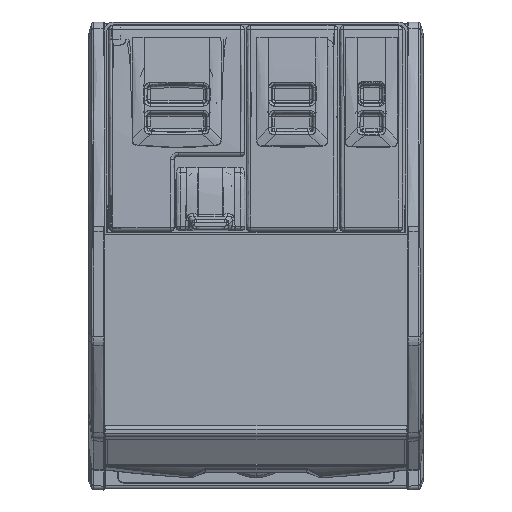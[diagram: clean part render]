
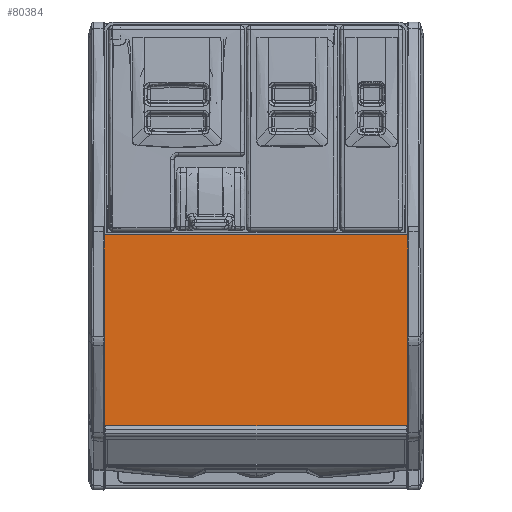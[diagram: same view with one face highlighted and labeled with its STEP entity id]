
A CAD part, top view. The second image highlights one B-rep face of the part: STEP entity #80384.
In plain terms, the highlighted planar face has unit normal (0, 0, 1).
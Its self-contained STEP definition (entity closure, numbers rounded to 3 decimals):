
#16496=ORIENTED_EDGE('',*,*,#26728,.T.);
#16497=ORIENTED_EDGE('',*,*,#30484,.F.);
#16498=ORIENTED_EDGE('',*,*,#30485,.F.);
#16499=ORIENTED_EDGE('',*,*,#26708,.F.);
#16500=ORIENTED_EDGE('',*,*,#30486,.F.);
#16501=ORIENTED_EDGE('',*,*,#30487,.T.);
#16502=ORIENTED_EDGE('',*,*,#30488,.F.);
#16503=ORIENTED_EDGE('',*,*,#30489,.T.);
#16504=ORIENTED_EDGE('',*,*,#30490,.T.);
#16505=ORIENTED_EDGE('',*,*,#30491,.T.);
#16506=ORIENTED_EDGE('',*,*,#30492,.T.);
#16507=ORIENTED_EDGE('',*,*,#30493,.T.);
#26708=EDGE_CURVE('',#35386,#35387,#40576,.T.);
#26728=EDGE_CURVE('',#35407,#35406,#40593,.T.);
#30484=EDGE_CURVE('',#37727,#35406,#41379,.T.);
#30485=EDGE_CURVE('',#35387,#37727,#41380,.T.);
#30486=EDGE_CURVE('',#37728,#35386,#41381,.T.);
#30487=EDGE_CURVE('',#37728,#37729,#41382,.T.);
#30488=EDGE_CURVE('',#37730,#37729,#41383,.T.);
#30489=EDGE_CURVE('',#37730,#37731,#41384,.T.);
#30490=EDGE_CURVE('',#37731,#37732,#41385,.T.);
#30491=EDGE_CURVE('',#37732,#37733,#41386,.T.);
#30492=EDGE_CURVE('',#37733,#37734,#41387,.T.);
#30493=EDGE_CURVE('',#37734,#35407,#41388,.T.);
#35386=VERTEX_POINT('',#105092);
#35387=VERTEX_POINT('',#105094);
#35406=VERTEX_POINT('',#105149);
#35407=VERTEX_POINT('',#105151);
#37727=VERTEX_POINT('',#176238);
#37728=VERTEX_POINT('',#176241);
#37729=VERTEX_POINT('',#176243);
#37730=VERTEX_POINT('',#176245);
#37731=VERTEX_POINT('',#176247);
#37732=VERTEX_POINT('',#176249);
#37733=VERTEX_POINT('',#176251);
#37734=VERTEX_POINT('',#176253);
#40576=LINE('',#105093,#43926);
#40593=LINE('',#105150,#43943);
#41379=LINE('',#176237,#44729);
#41380=LINE('',#176239,#44730);
#41381=LINE('',#176240,#44731);
#41382=LINE('',#176242,#44732);
#41383=LINE('',#176244,#44733);
#41384=LINE('',#176246,#44734);
#41385=LINE('',#176248,#44735);
#41386=LINE('',#176250,#44736);
#41387=LINE('',#176252,#44737);
#41388=LINE('',#176254,#44738);
#43926=VECTOR('',#87209,1000.);
#43943=VECTOR('',#87236,1000.);
#44729=VECTOR('',#90734,1000.);
#44730=VECTOR('',#90735,1000.);
#44731=VECTOR('',#90736,1000.);
#44732=VECTOR('',#90737,1000.);
#44733=VECTOR('',#90738,1000.);
#44734=VECTOR('',#90739,1000.);
#44735=VECTOR('',#90740,1000.);
#44736=VECTOR('',#90741,1000.);
#44737=VECTOR('',#90742,1000.);
#44738=VECTOR('',#90743,1000.);
#48317=EDGE_LOOP('',(#16496,#16497,#16498,#16499,#16500,#16501,#16502,#16503,
#16504,#16505,#16506,#16507));
#51837=FACE_BOUND('',#48317,.T.);
#54056=PLANE('',#83929);
#80384=ADVANCED_FACE('',(#51837),#54056,.T.);
#83929=AXIS2_PLACEMENT_3D('',#176236,#90732,#90733);
#87209=DIRECTION('',(0.,-1.,0.));
#87236=DIRECTION('',(1.,0.,0.));
#90732=DIRECTION('',(0.,0.,1.));
#90733=DIRECTION('',(1.,0.,0.));
#90734=DIRECTION('',(0.,1.,0.));
#90735=DIRECTION('',(-1.,0.,0.));
#90736=DIRECTION('',(-1.,0.,0.));
#90737=DIRECTION('',(0.,1.,0.));
#90738=DIRECTION('',(1.,0.,0.));
#90739=DIRECTION('',(0.,-1.,0.));
#90740=DIRECTION('',(1.,0.,0.));
#90741=DIRECTION('',(0.,-1.,0.));
#90742=DIRECTION('',(1.,0.,0.));
#90743=DIRECTION('',(0.,1.,0.));
#105092=CARTESIAN_POINT('',(0.,-518.035,502.3));
#105093=CARTESIAN_POINT('',(0.,-273.5,502.3));
#105094=CARTESIAN_POINT('',(0.,-519.449,502.3));
#105149=CARTESIAN_POINT('',(-2.,-518.035,502.3));
#105150=CARTESIAN_POINT('',(-195.,-518.035,502.3));
#105151=CARTESIAN_POINT('',(-388.,-518.035,502.3));
#176236=CARTESIAN_POINT('',(-195.,-273.5,502.3));
#176237=CARTESIAN_POINT('',(-2.,0.,502.3));
#176238=CARTESIAN_POINT('',(-2.,-519.449,502.3));
#176239=CARTESIAN_POINT('',(-195.,-519.449,502.3));
#176240=CARTESIAN_POINT('',(0.5,-518.035,502.3));
#176241=CARTESIAN_POINT('',(0.5,-518.035,502.3));
#176242=CARTESIAN_POINT('',(0.5,-273.5,502.3));
#176243=CARTESIAN_POINT('',(0.5,-273.5,502.3));
#176244=CARTESIAN_POINT('',(-195.,-273.5,502.3));
#176245=CARTESIAN_POINT('',(-390.5,-273.5,502.3));
#176246=CARTESIAN_POINT('',(-390.5,-273.5,502.3));
#176247=CARTESIAN_POINT('',(-390.5,-518.035,502.3));
#176248=CARTESIAN_POINT('',(-390.5,-518.035,502.3));
#176249=CARTESIAN_POINT('',(-390.,-518.035,502.3));
#176250=CARTESIAN_POINT('',(-390.,-273.5,502.3));
#176251=CARTESIAN_POINT('',(-390.,-519.449,502.3));
#176252=CARTESIAN_POINT('',(-195.,-519.449,502.3));
#176253=CARTESIAN_POINT('',(-388.,-519.449,502.3));
#176254=CARTESIAN_POINT('',(-388.,0.,502.3));
